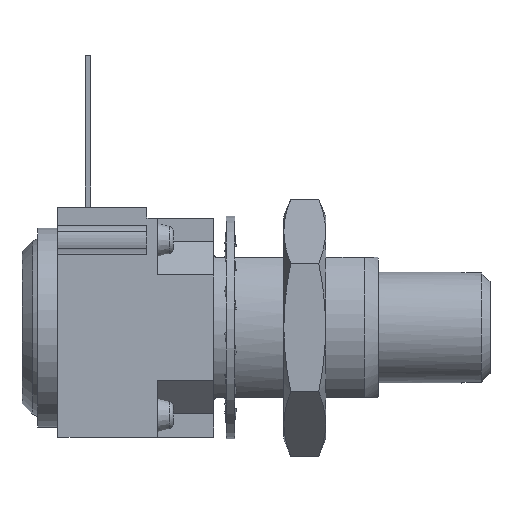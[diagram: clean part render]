
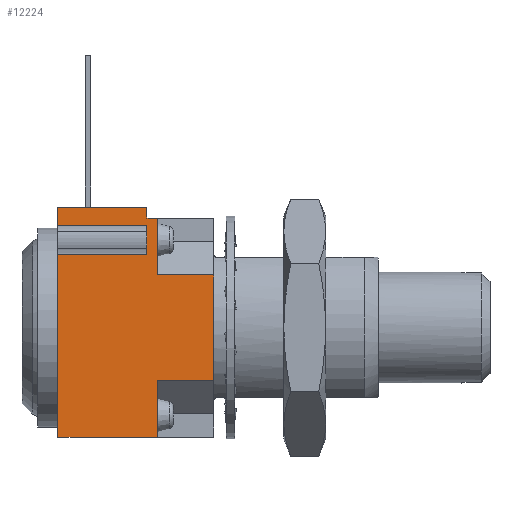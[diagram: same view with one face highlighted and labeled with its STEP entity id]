
A CAD part, front view. The second image highlights one B-rep face of the part: STEP entity #12224.
In plain terms, the highlighted planar face has unit normal (0, -1, 0).
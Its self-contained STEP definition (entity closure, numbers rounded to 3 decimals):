
#540=LINE('',#15955,#1340);
#720=LINE('',#16666,#1520);
#727=LINE('',#16685,#1527);
#809=LINE('',#16900,#1609);
#836=LINE('',#17178,#1636);
#844=LINE('',#17196,#1644);
#845=LINE('',#17197,#1645);
#996=LINE('',#17883,#1796);
#1008=LINE('',#17910,#1808);
#1028=LINE('',#17946,#1828);
#1029=LINE('',#17948,#1829);
#1030=LINE('',#17950,#1830);
#1031=LINE('',#17951,#1831);
#1032=LINE('',#17952,#1832);
#1340=VECTOR('',#13434,1000.);
#1520=VECTOR('',#14006,1000.);
#1527=VECTOR('',#14025,1000.);
#1609=VECTOR('',#14213,1000.);
#1636=VECTOR('',#14400,1000.);
#1644=VECTOR('',#14422,1000.);
#1645=VECTOR('',#14423,1000.);
#1796=VECTOR('',#15012,1000.);
#1808=VECTOR('',#15028,1000.);
#1828=VECTOR('',#15050,1000.);
#1829=VECTOR('',#15053,1000.);
#1830=VECTOR('',#15054,1000.);
#1831=VECTOR('',#15055,1000.);
#1832=VECTOR('',#15056,1000.);
#3794=ORIENTED_EDGE('',*,*,#5772,.F.);
#3795=ORIENTED_EDGE('',*,*,#5793,.F.);
#3796=ORIENTED_EDGE('',*,*,#5794,.T.);
#3797=ORIENTED_EDGE('',*,*,#5792,.F.);
#3798=ORIENTED_EDGE('',*,*,#5474,.T.);
#3799=ORIENTED_EDGE('',*,*,#5383,.T.);
#3800=ORIENTED_EDGE('',*,*,#5486,.F.);
#3801=ORIENTED_EDGE('',*,*,#5275,.F.);
#3802=ORIENTED_EDGE('',*,*,#4959,.T.);
#3803=ORIENTED_EDGE('',*,*,#5265,.T.);
#3804=ORIENTED_EDGE('',*,*,#5485,.F.);
#3805=ORIENTED_EDGE('',*,*,#5795,.T.);
#3806=ORIENTED_EDGE('',*,*,#5760,.F.);
#3807=ORIENTED_EDGE('',*,*,#5796,.T.);
#4959=EDGE_CURVE('',#6345,#6346,#540,.T.);
#5265=EDGE_CURVE('',#6346,#6576,#720,.T.);
#5275=EDGE_CURVE('',#6345,#6581,#727,.T.);
#5383=EDGE_CURVE('',#6663,#6662,#809,.T.);
#5474=EDGE_CURVE('',#6727,#6663,#836,.T.);
#5485=EDGE_CURVE('',#6730,#6576,#844,.T.);
#5486=EDGE_CURVE('',#6581,#6662,#845,.T.);
#5760=EDGE_CURVE('',#6885,#6886,#996,.T.);
#5772=EDGE_CURVE('',#6897,#6898,#1008,.T.);
#5792=EDGE_CURVE('',#6727,#6911,#1028,.T.);
#5793=EDGE_CURVE('',#6913,#6897,#1029,.T.);
#5794=EDGE_CURVE('',#6913,#6911,#1030,.T.);
#5795=EDGE_CURVE('',#6730,#6886,#1031,.T.);
#5796=EDGE_CURVE('',#6885,#6898,#1032,.T.);
#6345=VERTEX_POINT('',#15956);
#6346=VERTEX_POINT('',#15957);
#6576=VERTEX_POINT('',#16665);
#6581=VERTEX_POINT('',#16682);
#6662=VERTEX_POINT('',#16899);
#6663=VERTEX_POINT('',#16901);
#6727=VERTEX_POINT('',#17177);
#6730=VERTEX_POINT('',#17195);
#6885=VERTEX_POINT('',#17884);
#6886=VERTEX_POINT('',#17885);
#6897=VERTEX_POINT('',#17909);
#6898=VERTEX_POINT('',#17911);
#6911=VERTEX_POINT('',#17941);
#6913=VERTEX_POINT('',#17949);
#7939=EDGE_LOOP('',(#3794,#3795,#3796,#3797,#3798,#3799,#3800,#3801,#3802,
#3803,#3804,#3805,#3806,#3807));
#8584=FACE_BOUND('',#7939,.T.);
#9033=PLANE('',#13075);
#12224=ADVANCED_FACE('',(#8584),#9033,.T.);
#13075=AXIS2_PLACEMENT_3D('',#17947,#15051,#15052);
#13434=DIRECTION('',(0.,0.,-1.));
#14006=DIRECTION('',(-1.,0.,0.));
#14025=DIRECTION('',(-1.,0.,0.));
#14213=DIRECTION('',(-1.,0.,0.));
#14400=DIRECTION('',(0.,0.,1.));
#14422=DIRECTION('',(0.,0.,1.));
#14423=DIRECTION('',(0.,0.,1.));
#15012=DIRECTION('',(0.,0.,-1.));
#15028=DIRECTION('',(0.,0.,-1.));
#15050=DIRECTION('',(1.,0.,0.));
#15051=DIRECTION('',(0.,-1.,0.));
#15052=DIRECTION('',(1.,0.,0.));
#15053=DIRECTION('',(1.,0.,0.));
#15054=DIRECTION('',(0.,0.,1.));
#15055=DIRECTION('',(1.,0.,0.));
#15056=DIRECTION('',(1.,0.,0.));
#15955=CARTESIAN_POINT('',(-7.824,-6.25,6.25));
#15956=CARTESIAN_POINT('',(-7.824,-6.25,5.835));
#15957=CARTESIAN_POINT('',(-7.824,-6.25,4.165));
#16665=CARTESIAN_POINT('',(-12.904,-6.25,4.165));
#16666=CARTESIAN_POINT('',(-12.904,-6.25,4.165));
#16682=CARTESIAN_POINT('',(-12.904,-6.25,5.835));
#16685=CARTESIAN_POINT('',(-7.824,-6.25,5.835));
#16899=CARTESIAN_POINT('',(-12.904,-6.25,6.85));
#16900=CARTESIAN_POINT('',(7.241,-6.25,6.85));
#16901=CARTESIAN_POINT('',(-7.824,-6.25,6.85));
#17177=CARTESIAN_POINT('',(-7.824,-6.25,6.25));
#17178=CARTESIAN_POINT('',(-7.824,-6.25,-6.25));
#17195=CARTESIAN_POINT('',(-12.904,-6.25,-6.25));
#17196=CARTESIAN_POINT('',(-12.904,-6.25,-6.25));
#17197=CARTESIAN_POINT('',(-12.904,-6.25,-6.25));
#17883=CARTESIAN_POINT('',(-7.224,-6.25,-3.));
#17884=CARTESIAN_POINT('',(-7.224,-6.25,-3.));
#17885=CARTESIAN_POINT('',(-7.224,-6.25,-6.25));
#17909=CARTESIAN_POINT('',(-4.024,-6.25,3.));
#17910=CARTESIAN_POINT('',(-4.024,-6.25,6.25));
#17911=CARTESIAN_POINT('',(-4.024,-6.25,-3.));
#17941=CARTESIAN_POINT('',(-7.224,-6.25,6.25));
#17946=CARTESIAN_POINT('',(-7.824,-6.25,6.25));
#17947=CARTESIAN_POINT('',(-7.824,-6.25,6.25));
#17948=CARTESIAN_POINT('',(-7.224,-6.25,3.));
#17949=CARTESIAN_POINT('',(-7.224,-6.25,3.));
#17950=CARTESIAN_POINT('',(-7.224,-6.25,3.));
#17951=CARTESIAN_POINT('',(-7.824,-6.25,-6.25));
#17952=CARTESIAN_POINT('',(-7.224,-6.25,-3.));
